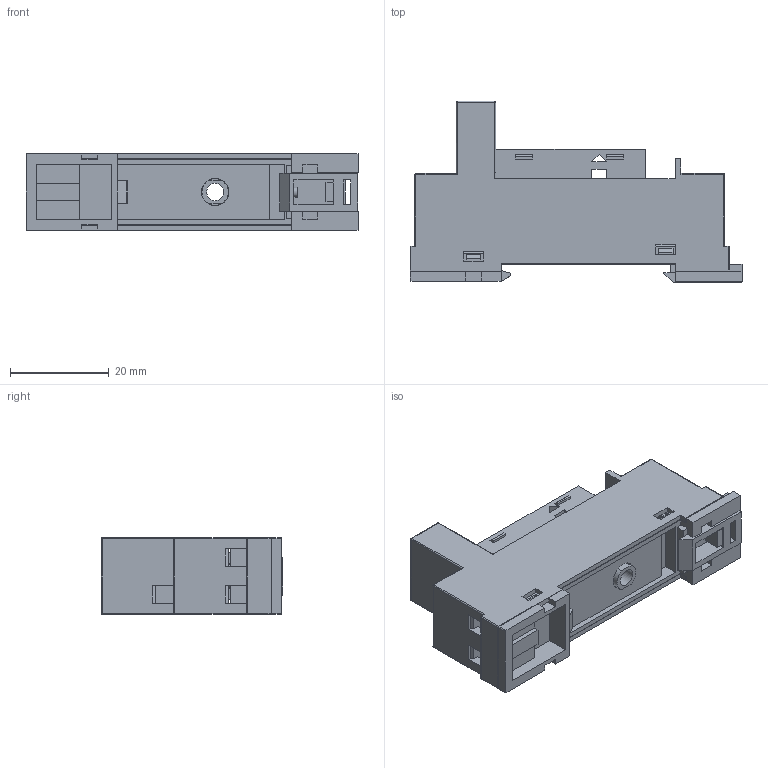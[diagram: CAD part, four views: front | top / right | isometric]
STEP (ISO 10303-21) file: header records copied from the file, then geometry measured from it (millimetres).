
FILE_DESCRIPTION(/* description */ (''),/* implementation_level */ '2;1');
FILE_NAME(/* name */ 'C:\Desktop\95.63\95.63_TOP.stp',/* time_stamp */ '2016-03-24T12:05:56+01:00',/* author */ ('marco'),/* organization */ (''),/* preprocessor_version */ 'ST-DEVELOPER v16.1',/* originating_system */ 'Autodesk Inventor 2016',/* authorisation */ '');
FILE_SCHEMA (('AUTOMOTIVE_DESIGN { 1 0 10303 214 3 1 1 }'));
Length unit declared in the file: centimetre
Products named in the file (1): 95.63_TOP
Bounding box: 67.4 x 36.9 x 15.5 mm (x, y, z)
Volume: 13167.3 mm3; surface area: 17906.3 mm2
Topology: 6 solids, 8 shells, 926 faces, 2579 edges, 1655 vertices
Faces by surface type: plane 844, cylinder 65, sphere 8, cone 7, bspline 2
Full cylindrical faces by diameter (mm): 2 x1, 2.6 x5, 2.88 x5, 3.5 x1, 4.7 x5, 4.8 x5, 5.6 x1
Entity records: 29819 total; most frequent: CARTESIAN_POINT 5171, ORIENTED_EDGE 5064, DIRECTION 4555, EDGE_CURVE 2530, LINE 2339, VECTOR 2339, VERTEX_POINT 1644, AXIS2_PLACEMENT_3D 1108
